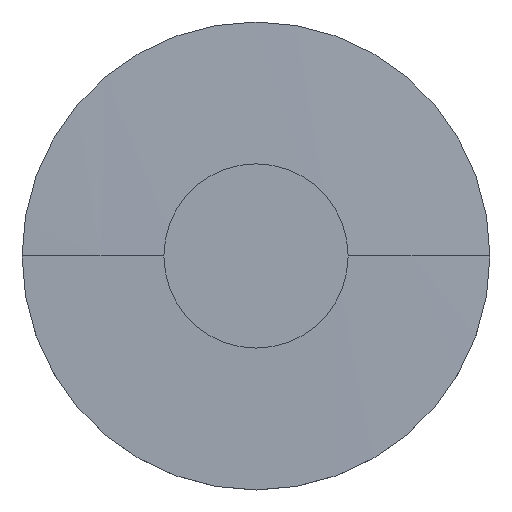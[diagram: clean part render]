
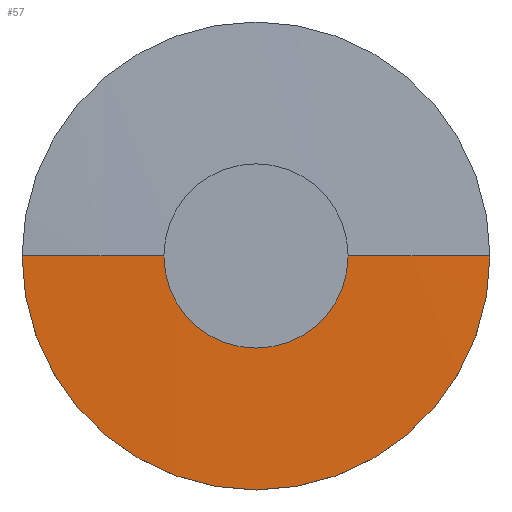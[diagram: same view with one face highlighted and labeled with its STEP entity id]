
A CAD part, top view. The second image highlights one B-rep face of the part: STEP entity #57.
In plain terms, the highlighted spherical face has radius 706.714 mm.
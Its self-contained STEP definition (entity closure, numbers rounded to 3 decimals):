
#57=ADVANCED_FACE('',(#71),#72,.T.);
#71=FACE_OUTER_BOUND('',#91,.T.);
#72=SPHERICAL_SURFACE('',#92,706.714);
#91=EDGE_LOOP('',(#124,#125,#126));
#92=AXIS2_PLACEMENT_3D('',#127,#128,#129);
#124=ORIENTED_EDGE('',*,*,#173,.T.);
#125=ORIENTED_EDGE('',*,*,#174,.T.);
#126=ORIENTED_EDGE('',*,*,#175,.T.);
#127=CARTESIAN_POINT('',(0.0,0.0,-700.214));
#128=DIRECTION('',(0.0,0.0,1.0));
#129=DIRECTION('',(1.0,0.0,0.0));
#173=EDGE_CURVE('',#189,#194,#195,.T.);
#174=EDGE_CURVE('',#194,#191,#196,.T.);
#175=EDGE_CURVE('',#191,#189,#197,.T.);
#189=VERTEX_POINT('',#215);
#191=VERTEX_POINT('',#218);
#194=VERTEX_POINT('',#222);
#195=CIRCLE('',#223,706.714);
#196=CIRCLE('',#224,706.714);
#197=CIRCLE('',#225,25.4);
#215=CARTESIAN_POINT('',(25.4,0.,6.043));
#218=CARTESIAN_POINT('',(-25.4,0.,6.043));
#222=CARTESIAN_POINT('',(0.0,0.0,6.5));
#223=AXIS2_PLACEMENT_3D('',#253,#254,#255);
#224=AXIS2_PLACEMENT_3D('',#256,#257,#258);
#225=AXIS2_PLACEMENT_3D('',#259,#260,#261);
#253=CARTESIAN_POINT('',(0.0,0.0,-700.214));
#254=DIRECTION('',(0.,-1.0,0.0));
#255=DIRECTION('',(0.0,0.0,1.0));
#256=CARTESIAN_POINT('',(0.0,0.0,-700.214));
#257=DIRECTION('',(0.,-1.0,0.0));
#258=DIRECTION('',(0.0,0.0,1.0));
#259=CARTESIAN_POINT('',(0.0,0.0,6.043));
#260=DIRECTION('',(0.0,0.0,1.0));
#261=DIRECTION('',(1.0,0.0,0.0));
